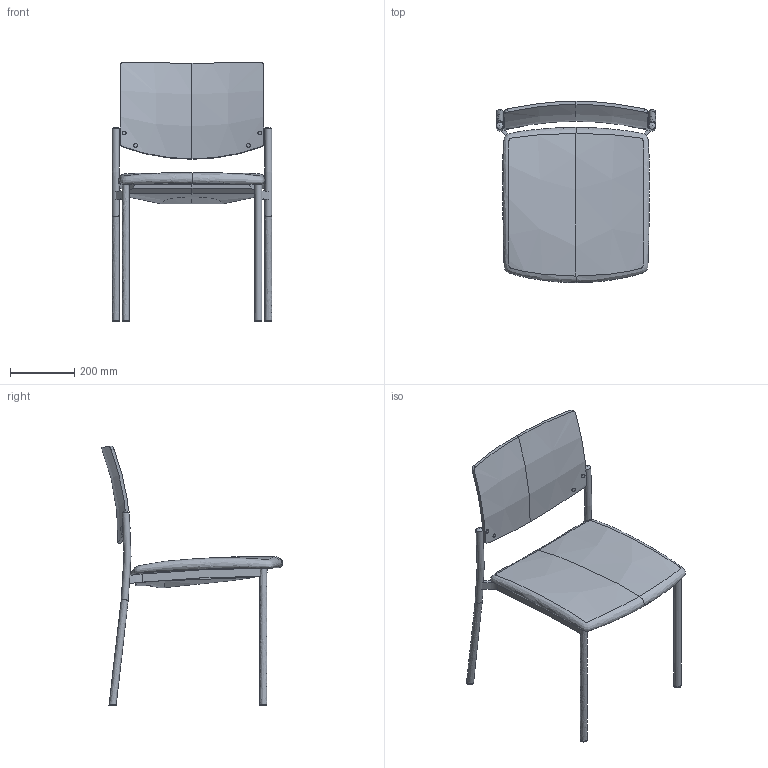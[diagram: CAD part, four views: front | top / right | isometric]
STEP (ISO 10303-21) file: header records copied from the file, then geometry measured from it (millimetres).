
FILE_DESCRIPTION(/* description */ (''),/* implementation_level */ '2;1');
FILE_NAME(/* name */ 'Seance 091',/* time_stamp */ '2020-03-26T10:52:17+01:00',/* author */ (''),/* organization */ (''),/* preprocessor_version */ 'ST-DEVELOPER v16.5',/* originating_system */ '',/* authorisation */ '');
FILE_SCHEMA (('AUTOMOTIVE_DESIGN'));
Length unit declared in the file: millimetre
Products named in the file (1): Document
Bounding box: 496 x 563.31 x 807.99 mm (x, y, z)
Volume: 9194634.6 mm3; surface area: 1145003.6 mm2
Topology: 10 solids, 19 shells, 94 faces, 193 edges, 127 vertices
Faces by surface type: bspline 54, plane 40
Entity records: 4387 total; most frequent: CARTESIAN_POINT 3030, ORIENTED_EDGE 358, EDGE_CURVE 188, B_SPLINE_CURVE_WITH_KNOTS 128, VERTEX_POINT 121, ADVANCED_FACE 94, FACE_OUTER_BOUND 94, EDGE_LOOP 94
